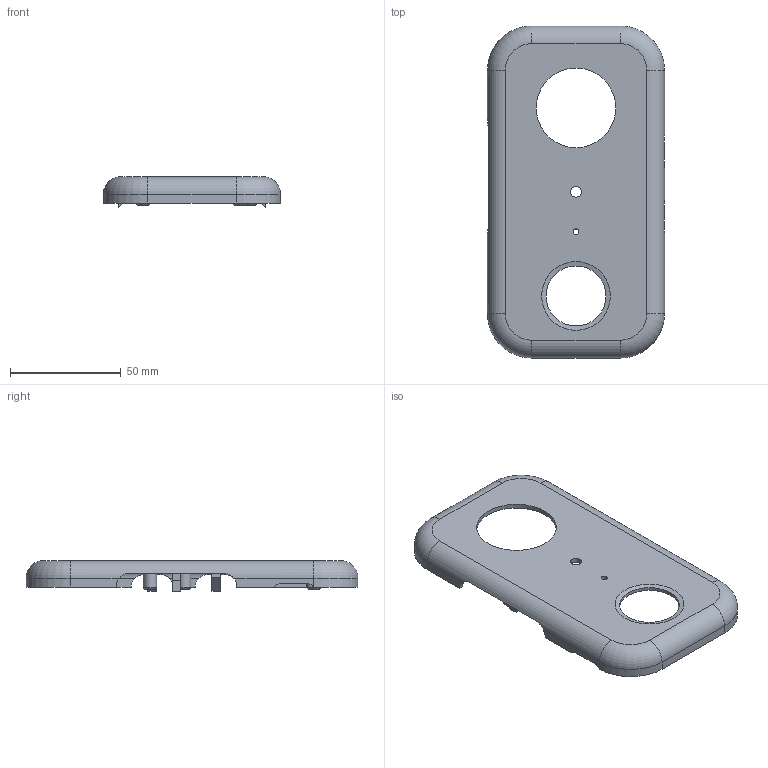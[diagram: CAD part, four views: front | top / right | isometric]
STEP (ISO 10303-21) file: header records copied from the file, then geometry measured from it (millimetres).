
FILE_DESCRIPTION(/* description */ (''),/* implementation_level */ '2;1');
FILE_NAME(/* name */ '08_Front_Shell_Body1.step',/* time_stamp */ '2026-09-19T10:15:31-07:00',/* author */ (''),/* organization */ (''),/* preprocessor_version */ 'ST-DEVELOPER v20.2',/* originating_system */ 'Autodesk Translation Framework v15.15.0.0',/* authorisation */ '');
FILE_SCHEMA (('AUTOMOTIVE_DESIGN { 1 0 10303 214 3 1 1 }'));
Length unit declared in the file: millimetre
Products named in the file (1): 2026-09-19-10-15-31-537
Bounding box: 80 x 150 x 14 mm (x, y, z)
Volume: 29028.1 mm3; surface area: 29105.5 mm2
Topology: 1 solids, 1 shells, 187 faces, 454 edges, 289 vertices
Faces by surface type: plane 87, cylinder 65, torus 21, cone 14
Full cylindrical faces by diameter (mm): 2 x9, 2.602 x1, 2.8 x1, 3.1 x1, 3.101 x1, 4.81 x1, 6 x3, 6.189 x1, 6.5 x2, 27.1 x1, 36 x1
Entity records: 5962 total; most frequent: CARTESIAN_POINT 1465, DIRECTION 951, ORIENTED_EDGE 908, EDGE_CURVE 454, AXIS2_PLACEMENT_3D 347, VERTEX_POINT 289, LINE 257, VECTOR 257
